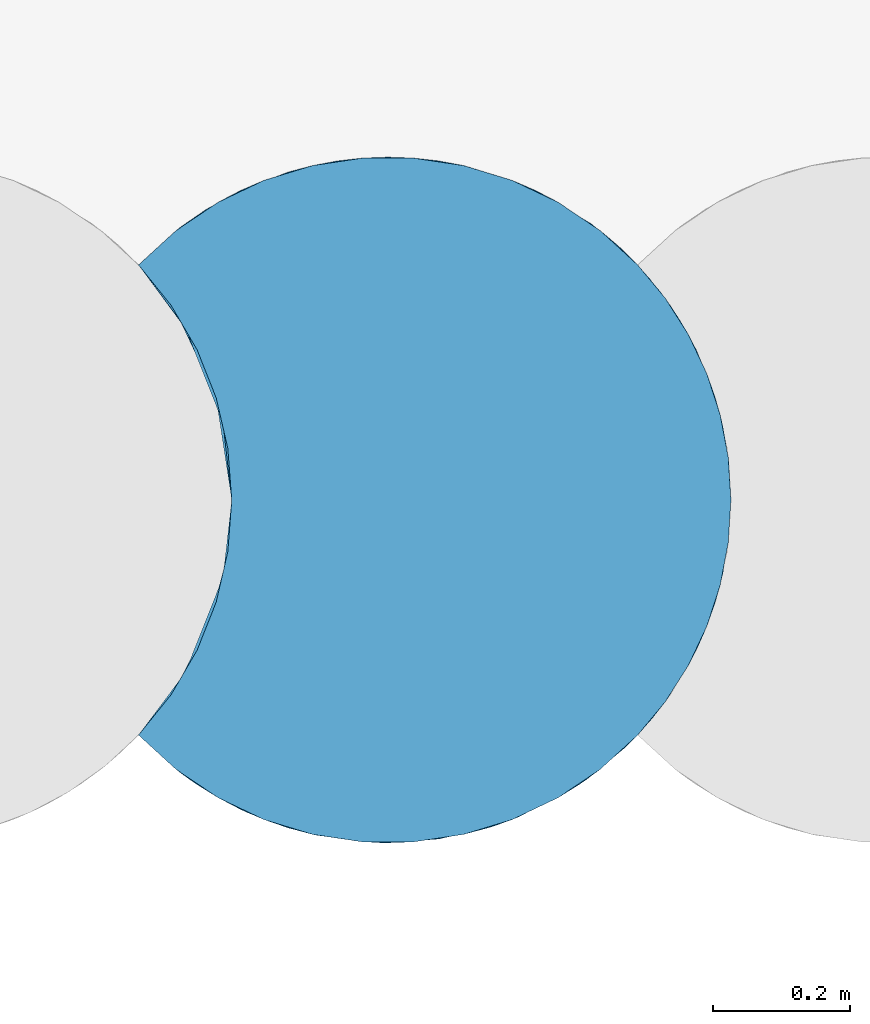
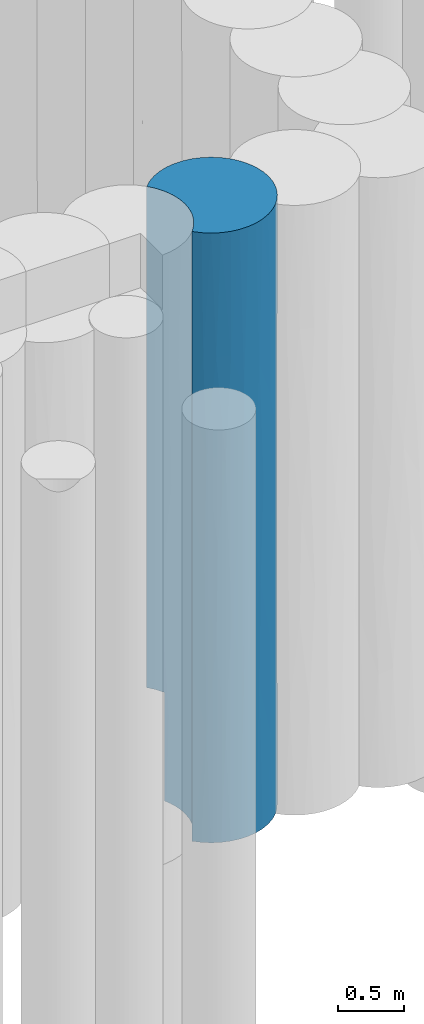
# One storey, part 50 of 104: 1 pile.
"""IFC2X3 building model written with IfcOpenShell, lengths in millimetres."""

from ifc_helpers import new_model, entity, si_unit, converted_unit, derived_unit, direction, frame, origin, place, context, subcontext, project, spatial, faceted_brep, source, transform, mapped, material, element, save


model = new_model("IFC2X3")

# Units and contexts
model_context = context("Model", 3, precision=0.01, world=origin(), true_north=direction((6.12303176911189e-17, 1.0)))
body_context = subcontext(model_context, "Body", "Model", "MODEL_VIEW")
ifc_project = project(units=[si_unit("LENGTHUNIT", "METRE", prefix="MILLI"), si_unit("AREAUNIT", "SQUARE_METRE", prefix="MILLI"), si_unit("VOLUMEUNIT", "CUBIC_METRE"), converted_unit("PLANEANGLEUNIT", "DEGREE", entity("IfcRatioMeasure", 0.0174532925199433), si_unit("PLANEANGLEUNIT", "RADIAN"), dimensions=[0, 0, 0, 0, 0, 0, 0]), si_unit("MASSUNIT", "GRAM", prefix="KILO"), derived_unit("MASSDENSITYUNIT", [(si_unit("MASSUNIT", "GRAM", prefix="KILO"), 1), (si_unit("LENGTHUNIT", "METRE"), -3)]), derived_unit("MOMENTOFINERTIAUNIT", [(si_unit("LENGTHUNIT", "METRE"), 4)]), si_unit("TIMEUNIT", "SECOND"), si_unit("FREQUENCYUNIT", "HERTZ"), si_unit("THERMODYNAMICTEMPERATUREUNIT", "DEGREE_CELSIUS"), derived_unit("THERMALTRANSMITTANCEUNIT", [(si_unit("MASSUNIT", "GRAM", prefix="KILO"), 1), (si_unit("THERMODYNAMICTEMPERATUREUNIT", "KELVIN"), -1), (si_unit("TIMEUNIT", "SECOND"), -3)]), derived_unit("VOLUMETRICFLOWRATEUNIT", [(si_unit("LENGTHUNIT", "METRE"), 3), (si_unit("TIMEUNIT", "SECOND"), -1)]), si_unit("ELECTRICCURRENTUNIT", "AMPERE"), si_unit("ELECTRICVOLTAGEUNIT", "VOLT"), si_unit("POWERUNIT", "WATT"), si_unit("FORCEUNIT", "NEWTON", prefix="KILO"), si_unit("ILLUMINANCEUNIT", "LUX"), si_unit("LUMINOUSFLUXUNIT", "LUMEN"), si_unit("LUMINOUSINTENSITYUNIT", "CANDELA"), derived_unit("USERDEFINED", [(si_unit("MASSUNIT", "GRAM", prefix="KILO"), -1), (si_unit("LENGTHUNIT", "METRE"), -2), (si_unit("TIMEUNIT", "SECOND"), 3), (si_unit("LUMINOUSFLUXUNIT", "LUMEN"), 1)]), derived_unit("LINEARVELOCITYUNIT", [(si_unit("LENGTHUNIT", "METRE"), 1), (si_unit("TIMEUNIT", "SECOND"), -1)]), si_unit("PRESSUREUNIT", "PASCAL"), derived_unit("USERDEFINED", [(si_unit("LENGTHUNIT", "METRE"), -2), (si_unit("MASSUNIT", "GRAM", prefix="KILO"), 1), (si_unit("TIMEUNIT", "SECOND"), -2)]), derived_unit("LINEARFORCEUNIT", [(si_unit("MASSUNIT", "GRAM", prefix="KILO"), 1), (si_unit("LENGTHUNIT", "METRE"), 1), (si_unit("TIMEUNIT", "SECOND"), -2), (si_unit("LENGTHUNIT", "METRE"), -1)]), derived_unit("PLANARFORCEUNIT", [(si_unit("MASSUNIT", "GRAM", prefix="KILO"), 1), (si_unit("LENGTHUNIT", "METRE"), 1), (si_unit("TIMEUNIT", "SECOND"), -2), (si_unit("LENGTHUNIT", "METRE"), -2)])], contexts=[model_context])

# Site, building, storey
site_placement = place(None, origin())
site = spatial("IfcSite", under=ifc_project, at=site_placement, Name="Theater aan de Parade", CompositionType="ELEMENT")
building_placement = place(site_placement, origin())
building = spatial("IfcBuilding", under=site, at=building_placement, Name="Theater aan de Parade", CompositionType="ELEMENT")
storey_placement = place(building_placement, frame((0.0, 0.0, -5520.0)))
storey = spatial("IfcBuildingStorey", under=building, at=storey_placement, Name="-2 kelder", CompositionType="ELEMENT", Elevation=-5520.0)

# Pile
ifc_material = material(Name="00_PBT_MAT_grout")
shared_shape = source(origin(), body_context, "Body", "Brep", [
    faceted_brep([(852.778565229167, 612.705865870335, 0.0), (862.377155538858, 556.859898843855, 0.0), (865.59527223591, 500.222804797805, 0.0), (861.63430504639, 437.411357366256, 0.0), (849.822713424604, 375.628321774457, 0.0), (830.347523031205, 315.817421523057, 0.0), (803.517959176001, 258.926886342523, 0.0), (769.755868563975, 205.851929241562, 0.0), (729.59474986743, 157.434177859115, 0.0), (674.963193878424, 107.423251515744, 0.0), (613.550146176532, 66.0357708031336, 0.0), (546.698111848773, 34.1737070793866, 0.0), (475.873547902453, 12.5357105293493, 0.0), (402.629961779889, 1.59625940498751, 0.0), (328.573875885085, 1.5952722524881, 0.0), (255.329632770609, 12.5328533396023, 0.0), (184.503810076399, 34.1692860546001, 0.0), (117.650023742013, 66.0302740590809, 0.0), (56.2348577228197, 107.417339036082, 0.0), (1.5952722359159, 157.434240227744, 0.0), (49.040477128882, 216.122746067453, 0.0), (87.1123213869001, 281.283492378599, 0.0), (114.943469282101, 351.432016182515, 0.0), (131.899884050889, 424.970225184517, 0.0), (137.59527223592, 500.222804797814, 0.0), (134.377353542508, 556.858162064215, 0.0), (124.780071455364, 612.699341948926, 0.0), (108.920050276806, 667.114846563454, 0.0), (86.9917285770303, 719.409540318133, 0.0), (814.991728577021, 719.409540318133, 0.0), (836.917925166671, 667.120848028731, 0.0), (854.020876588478, 607.182745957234, 1094.02741643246), (814.991728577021, 719.409540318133, 1000.0), (841.026602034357, 655.029298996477, 4762.58295011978), (803.517959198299, 741.518723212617, 5620.0), (830.347522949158, 684.628188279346, 5620.0), (865.59527223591, 500.222804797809, 2810.0), (865.59527223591, 500.222804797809, 1561.53772500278), (851.888657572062, 616.492935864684, 2185.76883482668), (703.210170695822, 869.026519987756, 2200.60581933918), (746.362503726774, 824.285013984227, 3310.00690634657), (803.401066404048, 741.730747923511, 2328.0665543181), (841.026601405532, 655.029300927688, 3857.71264231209), (865.59527223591, 500.222804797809, 4215.0), (865.59527223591, 500.222804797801, 4058.46229407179), (865.59527223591, 500.222804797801, 3123.07541185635), (476.571159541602, 987.751626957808, 4283.64346164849), (580.714838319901, 951.580282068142, 4088.45269383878), (439.453512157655, 994.737678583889, 3309.99801466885), (1.5952722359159, 843.01136936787, 5620.0), (56.2348580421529, 893.028270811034, 5620.0), (63.7853417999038, 898.858936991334, 4676.61157762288), (674.970941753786, 893.01625574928, 1000.0), (729.595272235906, 843.011369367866, 1000.0), (769.755868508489, 794.593680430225, 5620.0), (787.472388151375, 768.587666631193, 4395.38615293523), (328.567290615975, 998.849848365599, 1000.0), (291.74077990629, 994.738238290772, 2360.44460435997), (439.453512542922, 994.737678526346, 2129.89388414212), (580.720158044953, 951.577746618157, 2525.44905794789), (613.556610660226, 934.406147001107, 1000.0), (729.584965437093, 843.022313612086, 5620.0), (861.634305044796, 563.034252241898, 5620.0), (150.473767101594, 951.579357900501, 2319.63983707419), (117.637172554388, 934.407996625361, 1000.0), (65.20174308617, 899.927355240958, 1974.73221121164), (841.063509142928, 654.915906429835, 2981.48445914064), (865.59527223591, 500.222804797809, 5620.0), (849.822713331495, 624.817288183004, 5620.0), (790.70261788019, 763.440860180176, 1000.0), (762.167438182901, 804.739663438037, 1000.0), (100.386739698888, 924.091221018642, 3418.67983370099), (1.5952722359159, 843.011369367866, 2561.53489296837), (1.5952722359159, 843.01136936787, 4123.06978593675), (806.389759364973, 736.231745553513, 3307.45861235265), (699.528820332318, 872.36308138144, 4401.38648641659), (546.702158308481, 966.27033007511, 1000.0), (475.874328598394, 987.909722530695, 1000.0), (56.2225002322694, 893.018537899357, 1000.0), (674.963193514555, 893.022358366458, 5620.0), (328.12337895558, 998.816684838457, 3417.58259392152), (402.627039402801, 998.849567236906, 1000.0), (613.550145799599, 934.409839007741, 5620.0), (184.491893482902, 966.271693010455, 1000.0), (255.319907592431, 987.910557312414, 1000.0), (219.515588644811, 978.407628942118, 3586.41160869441), (256.001465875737, 988.064170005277, 4554.82452433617), (1.5952722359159, 843.01136936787, 1000.0), (150.486217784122, 951.585291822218, 4517.65925043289), (661.854395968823, 903.001319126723, 3156.01166058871), (117.650024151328, 934.415335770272, 5620.0), (365.601936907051, 1000.22280475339, 4389.69419363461), (546.698111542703, 966.27190263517, 5620.0), (402.629961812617, 998.849350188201, 5620.0), (475.873547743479, 987.909899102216, 5620.0), (328.573876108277, 998.850337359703, 5620.0), (184.503810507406, 966.276323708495, 5620.0), (255.329633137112, 987.912756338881, 5620.0), (219.515588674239, 22.0379806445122, 994.942789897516), (645.023985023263, 85.5909265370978, 810.753821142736), (86.175117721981, 85.5851590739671, 994.944437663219), (66.7455540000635, 99.3626721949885, 4465.09635389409), (117.650024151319, 66.0302738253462, 5620.0), (56.2348580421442, 107.417338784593, 5620.0), (365.601937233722, 0.222804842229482, 1466.90780681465), (657.019148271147, 93.9321151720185, 2810.0), (524.729861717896, 26.2226123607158, 2282.32447259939), (645.023985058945, 85.5909265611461, 1690.12843262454), (511.686987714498, 22.0416564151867, 1326.40558646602), (774.199042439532, 212.051052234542, 2004.68503856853), (750.43296541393, 181.005089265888, 1199.37007734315), (817.828225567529, 286.949843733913, 1628.24107952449), (439.454566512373, 5.70808848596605, 2810.0), (511.686987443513, 22.041656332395, 4293.59441641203), (365.601937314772, 0.222804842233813, 4153.09219296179), (219.515589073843, 22.0379805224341, 3492.73714159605), (257.99851149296, 11.9370922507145, 4473.57945276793), (150.486218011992, 48.8603176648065, 4474.5890771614), (645.02398465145, 85.5909262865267, 3929.87156502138), (645.023984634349, 85.5909262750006, 4809.24617760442), (184.503810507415, 34.1692858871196, 5620.0), (853.845399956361, 392.46468315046, 3590.76885291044), (85.7027751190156, 85.903857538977, 3590.76885378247), (817.828225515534, 286.94984362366, 3991.75892080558), (841.026602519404, 345.416312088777, 4728.84314183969), (805.355489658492, 262.292245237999, 4786.45848896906), (1.5952722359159, 157.434240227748, 1561.54552671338), (74.8586278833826, 93.4400573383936, 2515.81212408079), (1.5952722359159, 157.434240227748, 4058.45447328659), (556.377232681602, 38.0515772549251, 3195.12647963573), (805.355489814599, 262.292245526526, 833.541510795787), (861.634305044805, 437.411357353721, 5620.0), (402.629961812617, 1.59625940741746, 5620.0), (328.573876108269, 1.5952722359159, 5620.0), (750.432965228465, 181.005089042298, 4420.62992182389), (717.695690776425, 145.22238893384, 3615.31495996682), (841.02660261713, 345.416312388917, 891.156858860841), (546.698111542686, 34.1737069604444, 5620.0), (475.873547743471, 12.5357104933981, 5620.0), (1.59527223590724, 157.434240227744, 3123.09105342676), (355.804212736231, 0.318678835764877, 3263.19189052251), (262.138092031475, 11.043275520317, 2028.99523178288), (353.172110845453, 0.377163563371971, 2369.07591278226), (729.584965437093, 157.423295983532, 5620.0), (674.963193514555, 107.423251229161, 5620.0), (150.486217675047, 48.8603178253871, 1796.17663660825), (255.329633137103, 12.532853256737, 5620.0), (854.390248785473, 394.963739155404, 2342.30655876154), (830.347522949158, 315.817421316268, 5620.0), (849.822713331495, 375.628321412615, 5620.0), (826.042446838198, 305.316675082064, 2950.4711476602), (613.550145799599, 66.035770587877, 5620.0), (161.633251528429, 43.7148704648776, 2735.88706443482), (1.5952722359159, 157.434240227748, 5620.0), (769.75586850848, 205.85192916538, 5620.0), (711.742683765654, 139.415419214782, 2094.13410580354), (803.517959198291, 258.926886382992, 5620.0), (1.5952722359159, 157.434240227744, 2496.92458741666), (750.432965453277, 181.005089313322, 2810.0), (49.040477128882, 784.322863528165, 5620.0), (87.1123213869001, 719.162117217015, 5620.0), (114.943469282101, 649.013593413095, 5620.0), (131.899884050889, 575.475384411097, 5620.0), (137.59527223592, 500.222804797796, 5620.0), (131.899884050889, 424.970225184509, 5620.0), (114.943469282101, 351.43201618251, 5620.0), (87.1123213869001, 281.283492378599, 5620.0), (49.040477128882, 216.122746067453, 5620.0), (137.59527223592, 500.222804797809, 1561.53772533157), (137.59527223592, 500.222804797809, 2810.0), (118.129955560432, 638.376408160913, 2185.76884068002), (124.811099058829, 612.564863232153, 4657.58649590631), (137.59527223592, 500.222804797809, 4215.0), (125.97381170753, 607.397438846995, 1095.37767137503), (69.3075384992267, 752.461816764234, 4657.58649237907), (102.353272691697, 684.61369668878, 3905.98762480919), (57.7018130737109, 771.350992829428, 3773.13755671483), (86.9917285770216, 719.409540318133, 1000.0), (129.799943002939, 588.169163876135, 3749.9570979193), (48.9622639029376, 784.436101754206, 1000.0), (114.521440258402, 650.360842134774, 3074.47446079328), (73.2384738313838, 745.610255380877, 2499.01518659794), (137.59527223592, 500.222804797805, 3123.07541190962), (137.59527223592, 500.222804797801, 4058.46229404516), (124.811099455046, 387.880748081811, 4607.47022373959), (69.3075392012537, 247.983794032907, 4607.47022365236), (56.4533644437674, 227.169882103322, 2029.23114695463), (102.353273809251, 315.83191572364, 1827.31664125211), (124.811099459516, 387.880748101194, 1012.52977635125), (69.3075392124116, 247.983794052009, 1012.52977643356), (129.722802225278, 411.845804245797, 3590.76885293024), (102.353273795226, 315.831915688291, 3792.68335898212), (128.169789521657, 403.596498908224, 2509.8180055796), (60.9783062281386, 234.240086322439, 3110.18199494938), (103.558997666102, 318.900421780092, 2894.95173457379)], [[[0, 1, 2, 3, 4, 5, 6, 7, 8, 9, 10, 11, 12, 13, 14, 15, 16, 17, 18, 19, 20, 21, 22, 23, 24, 25, 26, 27, 28, 29, 30]], [[31, 30, 32]], [[33, 34, 35]], [[36, 37, 38]], [[39, 40, 41]], [[41, 38, 32]], [[42, 33, 43, 44, 45, 36]], [[46, 47, 48]], [[49, 50, 51]], [[52, 39, 53]], [[54, 34, 55]], [[56, 57, 58]], [[59, 39, 60]], [[48, 47, 59]], [[30, 29, 32]], [[38, 37, 31]], [[54, 55, 61]], [[43, 33, 62]], [[63, 64, 65]], [[66, 36, 38]], [[43, 62, 67]], [[2, 1, 31]], [[68, 33, 35]], [[1, 0, 31]], [[33, 55, 34]], [[69, 70, 41]], [[53, 39, 70]], [[70, 39, 41]], [[71, 72, 73]], [[74, 55, 42]], [[55, 75, 61]], [[76, 77, 58]], [[69, 41, 32]], [[65, 64, 78]], [[75, 79, 61]], [[80, 58, 57]], [[58, 77, 81]], [[40, 74, 41]], [[59, 76, 58]], [[75, 82, 79]], [[83, 63, 84]], [[55, 40, 75]], [[57, 84, 63]], [[80, 85, 86]], [[63, 83, 64]], [[38, 31, 32]], [[63, 85, 57]], [[87, 72, 65]], [[88, 85, 71]], [[39, 89, 40]], [[57, 56, 84]], [[90, 88, 51]], [[89, 39, 59]], [[91, 46, 48]], [[82, 47, 92]], [[47, 46, 92]], [[58, 81, 56]], [[85, 88, 86]], [[93, 94, 46]], [[80, 91, 48]], [[71, 85, 63]], [[93, 91, 95]], [[96, 88, 90]], [[86, 95, 91]], [[55, 33, 42]], [[33, 68, 62]], [[86, 91, 80]], [[90, 51, 50]], [[97, 86, 96]], [[59, 58, 48]], [[71, 63, 65]], [[60, 76, 59]], [[51, 71, 73]], [[60, 39, 52]], [[41, 74, 66]], [[89, 75, 40]], [[82, 75, 47]], [[96, 86, 88]], [[95, 86, 97]], [[31, 37, 2]], [[31, 0, 30]], [[59, 47, 89]], [[75, 89, 47]], [[93, 46, 91]], [[92, 46, 94]], [[58, 80, 48]], [[57, 85, 80]], [[55, 74, 40]], [[66, 74, 42]], [[36, 66, 42]], [[41, 66, 38]], [[87, 65, 78]], [[71, 65, 72]], [[71, 51, 88]], [[49, 51, 73]], [[98, 16, 15]], [[99, 11, 10]], [[98, 100, 17]], [[101, 102, 103]], [[104, 98, 14]], [[105, 106, 107]], [[12, 11, 108]], [[109, 110, 111]], [[108, 13, 12]], [[18, 100, 19]], [[112, 113, 114]], [[115, 116, 117]], [[104, 14, 13]], [[110, 107, 99]], [[113, 118, 119]], [[99, 108, 11]], [[120, 102, 117]], [[104, 13, 108]], [[121, 45, 44]], [[116, 115, 114]], [[101, 122, 117]], [[123, 124, 125]], [[126, 100, 127]], [[128, 122, 101]], [[129, 113, 112]], [[116, 120, 117]], [[130, 6, 5]], [[3, 2, 37]], [[131, 44, 43, 67]], [[114, 132, 133]], [[113, 132, 114]], [[134, 135, 123]], [[130, 136, 111]], [[113, 137, 138]], [[122, 128, 139]], [[110, 8, 7]], [[140, 141, 142]], [[99, 8, 110]], [[119, 143, 144]], [[130, 7, 6]], [[100, 98, 145]], [[136, 3, 37]], [[108, 106, 104]], [[145, 98, 141]], [[116, 133, 146]], [[147, 37, 36, 45]], [[130, 5, 136]], [[148, 124, 149]], [[112, 140, 142]], [[131, 149, 124]], [[150, 111, 147]], [[132, 113, 138]], [[136, 5, 4]], [[151, 119, 144]], [[134, 143, 119]], [[152, 122, 127]], [[153, 128, 101]], [[134, 154, 143]], [[134, 125, 154]], [[155, 110, 109]], [[118, 113, 129]], [[119, 137, 113]], [[148, 125, 124]], [[17, 100, 18]], [[148, 156, 125]], [[147, 45, 121]], [[129, 105, 118]], [[10, 9, 99]], [[135, 134, 118]], [[17, 16, 98]], [[121, 124, 123]], [[131, 124, 44]], [[3, 136, 4]], [[147, 136, 37]], [[14, 98, 15]], [[141, 98, 104]], [[127, 100, 145]], [[19, 100, 126]], [[119, 151, 137]], [[134, 119, 118]], [[99, 9, 8]], [[108, 99, 107]], [[127, 122, 139]], [[115, 117, 122]], [[124, 121, 44]], [[150, 147, 121]], [[150, 121, 123]], [[136, 147, 111]], [[142, 141, 104]], [[152, 141, 115]], [[127, 139, 157, 126]], [[152, 127, 145]], [[123, 158, 150]], [[150, 158, 109]], [[154, 125, 156]], [[134, 123, 125]], [[111, 110, 130]], [[7, 130, 110]], [[133, 116, 114]], [[120, 116, 146]], [[141, 152, 145]], [[122, 152, 115]], [[106, 129, 112]], [[129, 106, 105]], [[155, 105, 107]], [[135, 105, 158]], [[104, 112, 142]], [[112, 114, 140]], [[114, 115, 140]], [[141, 140, 115]], [[104, 106, 112]], [[107, 106, 108]], [[102, 101, 117]], [[153, 101, 103]], [[105, 135, 118]], [[123, 135, 158]], [[150, 109, 111]], [[155, 109, 158]], [[105, 155, 158]], [[110, 155, 107]], [[92, 94, 93, 95, 97, 96, 90, 50, 49, 159, 160, 161, 162, 163, 164, 165, 166, 167, 153, 103, 102, 120, 146, 133, 132, 138, 137, 151, 144, 143, 154, 156, 148, 149, 131, 67, 62, 68, 35, 34, 54, 61, 79, 82]], [[168, 169, 170]], [[171, 161, 160]], [[163, 171, 172]], [[24, 173, 25]], [[73, 174, 49]], [[173, 26, 25]], [[173, 27, 26]], [[162, 161, 171]], [[171, 174, 175]], [[174, 73, 176]], [[173, 177, 27]], [[178, 171, 175]], [[72, 87, 179]], [[175, 180, 178]], [[49, 174, 159]], [[168, 170, 173]], [[159, 174, 160]], [[181, 72, 179]], [[172, 171, 178]], [[175, 174, 176]], [[160, 174, 171]], [[181, 180, 176]], [[181, 179, 177]], [[28, 27, 177]], [[178, 169, 182, 183, 172]], [[162, 171, 163]], [[170, 169, 180]], [[178, 180, 169]], [[170, 180, 181]], [[170, 181, 177]], [[176, 73, 72]], [[175, 176, 180]], [[181, 176, 72]], [[177, 173, 170]], [[24, 168, 173]], [[165, 184, 185, 166]], [[184, 164, 163]], [[186, 126, 157]], [[187, 188, 189]], [[21, 20, 189]], [[166, 185, 167]], [[183, 182, 190]], [[24, 188, 168]], [[184, 163, 172, 183]], [[191, 185, 184]], [[168, 188, 192]], [[165, 164, 184]], [[192, 182, 169, 168]], [[21, 189, 188, 22]], [[22, 188, 23]], [[193, 186, 157]], [[128, 153, 185]], [[126, 189, 19]], [[23, 188, 24]], [[192, 190, 182]], [[193, 157, 139, 128]], [[19, 189, 20]], [[167, 185, 153]], [[128, 185, 193]], [[187, 189, 186]], [[191, 184, 190]], [[126, 186, 189]], [[187, 194, 192]], [[187, 186, 194]], [[185, 191, 193]], [[183, 190, 184]], [[194, 193, 191]], [[191, 190, 194]], [[188, 187, 192]], [[186, 193, 194]], [[192, 194, 190]], [[84, 56, 81, 77, 76, 60, 52, 53, 70, 69, 32, 177, 179, 87, 78, 64, 83]], [[177, 32, 29, 28]]]),
])
pile_placement = place(storey_placement, frame((40312.2628578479, 37980.5904596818, -3840.0)))
element("IfcPile", 1, at=pile_placement, inside=storey, material=ifc_material, Name="17_PBT_SFO_grondkering_rond:Ø1000 (grondkering)", ObjectType="17_PBT_SFO_grondkering_rond:Ø1000 (grondkering)", PredefinedType="NOTDEFINED", context=body_context, shape_type="MappedRepresentation", body=[
    mapped(shared_shape, transform((0.0, 0.0, 0.0), scale=1.0)),
])

save(model, "model.ifc")
